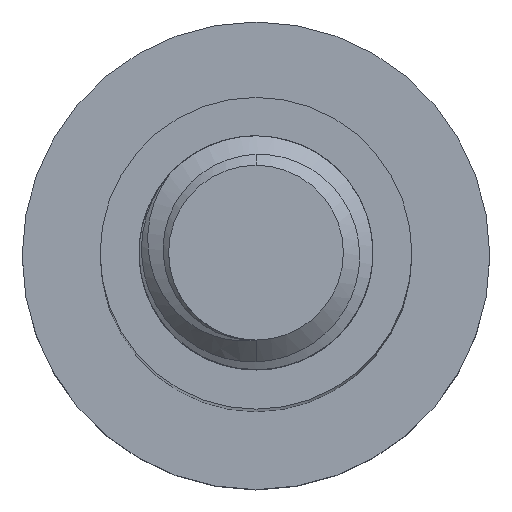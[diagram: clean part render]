
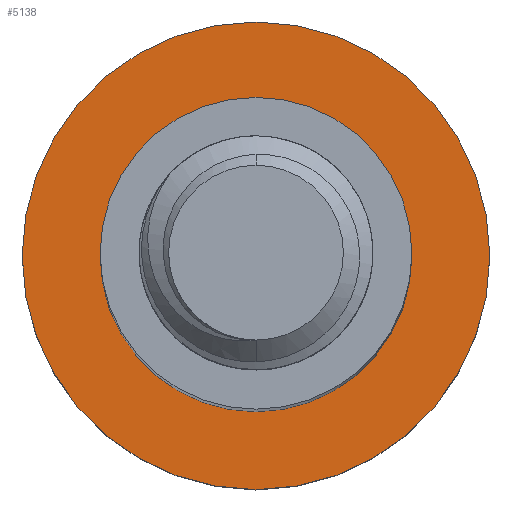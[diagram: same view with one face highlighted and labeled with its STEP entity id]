
A CAD part, top view. The second image highlights one B-rep face of the part: STEP entity #5138.
In plain terms, the highlighted planar face has unit normal (0, 0, 1).
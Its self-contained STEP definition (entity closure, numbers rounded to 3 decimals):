
#77 = CARTESIAN_POINT ( 'NONE',  ( 12., 0., -75. ) ) ;
#117 = VERTEX_POINT ( 'NONE', #3211 ) ;
#251 = AXIS2_PLACEMENT_3D ( 'NONE', #3023, #1417, #4750 ) ;
#302 = DIRECTION ( 'NONE',  ( 0., 0., -1. ) ) ;
#526 = CARTESIAN_POINT ( 'NONE',  ( 0., 0., -75. ) ) ;
#793 = CARTESIAN_POINT ( 'NONE',  ( 0., 0., -75. ) ) ;
#859 = EDGE_CURVE ( 'NONE', #2152, #3781, #2838, .T. ) ;
#1022 = AXIS2_PLACEMENT_3D ( 'NONE', #526, #4929, #2155 ) ;
#1036 = DIRECTION ( 'NONE',  ( -1., 0., 0. ) ) ;
#1064 = CARTESIAN_POINT ( 'NONE',  ( -12., 0., -75. ) ) ;
#1172 = DIRECTION ( 'NONE',  ( -1., 0., 0. ) ) ;
#1315 = DIRECTION ( 'NONE',  ( 0., 0., -1. ) ) ;
#1417 = DIRECTION ( 'NONE',  ( 0., 0., -1. ) ) ;
#1643 = EDGE_LOOP ( 'NONE', ( #2845, #3291 ) ) ;
#1700 = AXIS2_PLACEMENT_3D ( 'NONE', #793, #302, #1036 ) ;
#1948 = CIRCLE ( 'NONE', #4872, 8. ) ;
#2152 = VERTEX_POINT ( 'NONE', #77 ) ;
#2155 = DIRECTION ( 'NONE',  ( -1., 0., 0. ) ) ;
#2237 = EDGE_LOOP ( 'NONE', ( #4167, #2446 ) ) ;
#2446 = ORIENTED_EDGE ( 'NONE', *, *, #4639, .F. ) ;
#2838 = CIRCLE ( 'NONE', #251, 12. ) ;
#2845 = ORIENTED_EDGE ( 'NONE', *, *, #4760, .T. ) ;
#3023 = CARTESIAN_POINT ( 'NONE',  ( 0., 0., -75. ) ) ;
#3208 = CARTESIAN_POINT ( 'NONE',  ( 0., 0., -75. ) ) ;
#3211 = CARTESIAN_POINT ( 'NONE',  ( -8., 0., -75. ) ) ;
#3235 = FACE_BOUND ( 'NONE', #1643, .T. ) ;
#3291 = ORIENTED_EDGE ( 'NONE', *, *, #3710, .T. ) ;
#3403 = CARTESIAN_POINT ( 'NONE',  ( 0., 0., -75. ) ) ;
#3710 = EDGE_CURVE ( 'NONE', #4361, #117, #4116, .T. ) ;
#3781 = VERTEX_POINT ( 'NONE', #1064 ) ;
#4040 = AXIS2_PLACEMENT_3D ( 'NONE', #3208, #4419, #1172 ) ;
#4079 = CARTESIAN_POINT ( 'NONE',  ( 8., 0., -75. ) ) ;
#4116 = CIRCLE ( 'NONE', #1700, 8. ) ;
#4119 = CIRCLE ( 'NONE', #1022, 12. ) ;
#4167 = ORIENTED_EDGE ( 'NONE', *, *, #859, .F. ) ;
#4361 = VERTEX_POINT ( 'NONE', #4079 ) ;
#4419 = DIRECTION ( 'NONE',  ( 0., 0., -1. ) ) ;
#4639 = EDGE_CURVE ( 'NONE', #3781, #2152, #4119, .T. ) ;
#4733 = FACE_OUTER_BOUND ( 'NONE', #2237, .T. ) ;
#4750 = DIRECTION ( 'NONE',  ( -1., 0., 0. ) ) ;
#4757 = PLANE ( 'NONE',  #4040 ) ;
#4760 = EDGE_CURVE ( 'NONE', #117, #4361, #1948, .T. ) ;
#4872 = AXIS2_PLACEMENT_3D ( 'NONE', #3403, #1315, #4923 ) ;
#4923 = DIRECTION ( 'NONE',  ( -1., 0., 0. ) ) ;
#4929 = DIRECTION ( 'NONE',  ( 0., 0., -1. ) ) ;
#5138 = ADVANCED_FACE ( 'NONE', ( #3235, #4733 ), #4757, .F. ) ;
